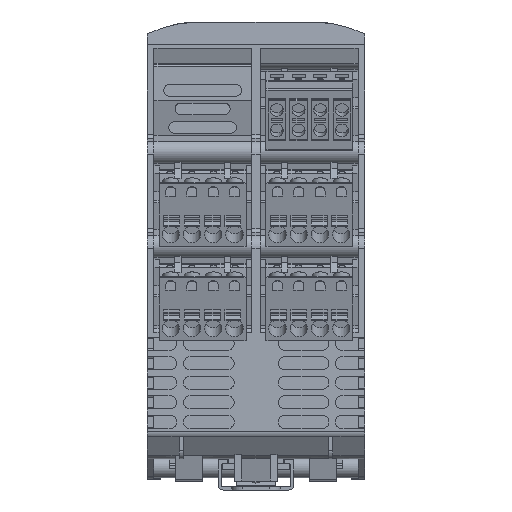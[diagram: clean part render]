
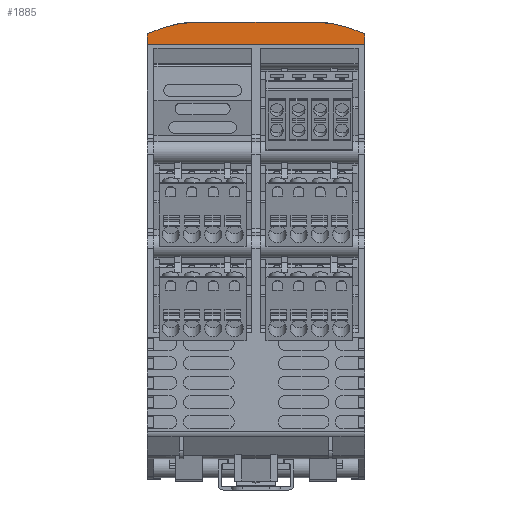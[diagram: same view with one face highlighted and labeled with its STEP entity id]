
A CAD part, front view. The second image highlights one B-rep face of the part: STEP entity #1885.
In plain terms, the highlighted planar face has unit normal (0, -0.999, 0.035).
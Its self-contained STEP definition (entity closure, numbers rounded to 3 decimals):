
#1885 = ADVANCED_FACE( '', ( #6423 ), #6424, .F. );
#6423 = FACE_OUTER_BOUND( '', #11552, .T. );
#6424 = PLANE( '', #11553 );
#11552 = EDGE_LOOP( '', ( #28171, #28172, #28173, #28174, #28175, #28176 ) );
#11553 = AXIS2_PLACEMENT_3D( '', #28177, #28178, #28179 );
#28171 = ORIENTED_EDGE( '', *, *, #36804, .F. );
#28172 = ORIENTED_EDGE( '', *, *, #32860, .T. );
#28173 = ORIENTED_EDGE( '', *, *, #38455, .F. );
#28174 = ORIENTED_EDGE( '', *, *, #38456, .T. );
#28175 = ORIENTED_EDGE( '', *, *, #38369, .T. );
#28176 = ORIENTED_EDGE( '', *, *, #38453, .F. );
#28177 = CARTESIAN_POINT( '', ( 25., -35.198, 104.035 ) );
#28178 = DIRECTION( '', ( 0., 0.999, -0.035 ) );
#28179 = DIRECTION( '', ( 0., 0.035, 0.999 ) );
#32860 = EDGE_CURVE( '', #39397, #39395, #39398, .F. );
#36804 = EDGE_CURVE( '', #39397, #46195, #46196, .T. );
#38369 = EDGE_CURVE( '', #48808, #48806, #48809, .T. );
#38453 = EDGE_CURVE( '', #46195, #48806, #48951, .T. );
#38455 = EDGE_CURVE( '', #48953, #39395, #48954, .T. );
#38456 = EDGE_CURVE( '', #48953, #48808, #48955, .F. );
#39395 = VERTEX_POINT( '', #50514 );
#39397 = VERTEX_POINT( '', #50517 );
#39398 = ELLIPSE( '', #50518, 30.018, 30. );
#46195 = VERTEX_POINT( '', #60732 );
#46196 = LINE( '', #60733, #60734 );
#48806 = VERTEX_POINT( '', #64703 );
#48808 = VERTEX_POINT( '', #64706 );
#48809 = LINE( '', #64707, #64708 );
#48951 = LINE( '', #64917, #64918 );
#48953 = VERTEX_POINT( '', #64921 );
#48954 = LINE( '', #64922, #64923 );
#48955 = ELLIPSE( '', #64924, 30.018, 30. );
#50514 = CARTESIAN_POINT( '', ( 13.595, -35.317, 100.63 ) );
#50517 = CARTESIAN_POINT( '', ( 25., -35.412, 97.922 ) );
#50518 = AXIS2_PLACEMENT_3D( '', #67063, #67064, #67065 );
#60732 = CARTESIAN_POINT( '', ( 25., -35.5, 95.4 ) );
#60733 = CARTESIAN_POINT( '', ( 25., -35.198, 104.035 ) );
#60734 = VECTOR( '', #72232, 1000. );
#64703 = CARTESIAN_POINT( '', ( -25., -35.5, 95.4 ) );
#64706 = CARTESIAN_POINT( '', ( -25., -35.412, 97.922 ) );
#64707 = CARTESIAN_POINT( '', ( -25., -35.198, 104.035 ) );
#64708 = VECTOR( '', #74236, 1000. );
#64917 = CARTESIAN_POINT( '', ( 25., -35.5, 95.4 ) );
#64918 = VECTOR( '', #74352, 1000. );
#64921 = CARTESIAN_POINT( '', ( -13.595, -35.317, 100.63 ) );
#64922 = CARTESIAN_POINT( '', ( 25., -35.317, 100.63 ) );
#64923 = VECTOR( '', #74354, 1000. );
#64924 = AXIS2_PLACEMENT_3D( '', #74355, #74356, #74357 );
#67063 = CARTESIAN_POINT( '', ( 12.5, -36.364, 70.65 ) );
#67064 = DIRECTION( '', ( 0., 0.999, -0.035 ) );
#67065 = DIRECTION( '', ( 0., -0.035, -0.999 ) );
#72232 = DIRECTION( '', ( 0., -0.035, -0.999 ) );
#74236 = DIRECTION( '', ( 0., -0.035, -0.999 ) );
#74352 = DIRECTION( '', ( -1., 0., 0. ) );
#74354 = DIRECTION( '', ( 1., 0., 0. ) );
#74355 = CARTESIAN_POINT( '', ( -12.5, -36.364, 70.65 ) );
#74356 = DIRECTION( '', ( 0., 0.999, -0.035 ) );
#74357 = DIRECTION( '', ( 0., -0.035, -0.999 ) );
